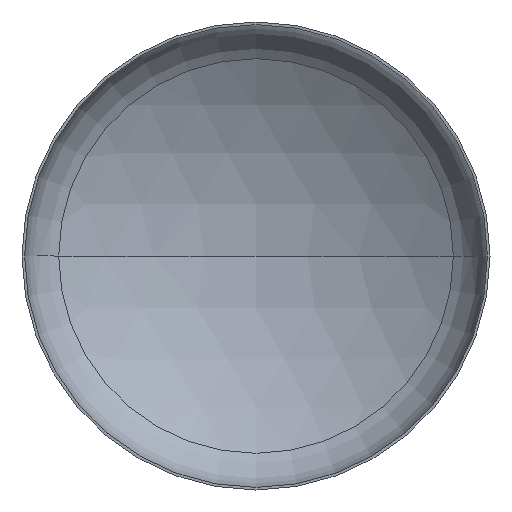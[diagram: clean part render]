
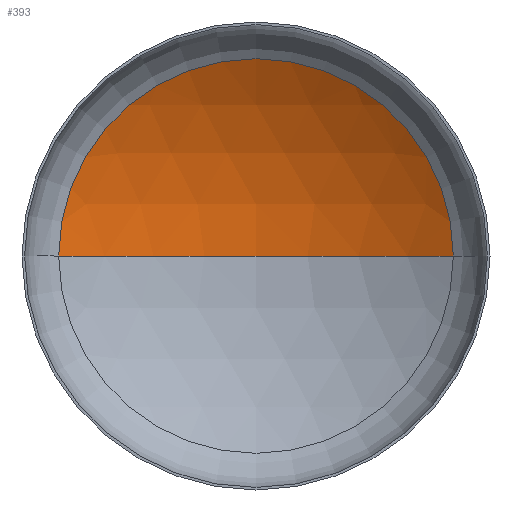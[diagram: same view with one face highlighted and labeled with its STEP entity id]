
A CAD part, front view. The second image highlights one B-rep face of the part: STEP entity #393.
In plain terms, the highlighted spherical face has radius 2880 mm.
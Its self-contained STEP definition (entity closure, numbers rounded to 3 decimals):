
#7 = AXIS2_PLACEMENT_3D ( 'NONE', #399, #205, #112 ) ;
#8 = CARTESIAN_POINT ( 'NONE',  ( 0., -1916.107, 0. ) ) ;
#12 = EDGE_LOOP ( 'NONE', ( #57, #41, #79 ) ) ;
#41 = ORIENTED_EDGE ( 'NONE', *, *, #124, .T. ) ;
#53 = AXIS2_PLACEMENT_3D ( 'NONE', #8, #259, #207 ) ;
#54 = AXIS2_PLACEMENT_3D ( 'NONE', #232, #330, #332 ) ;
#57 = ORIENTED_EDGE ( 'NONE', *, *, #342, .F. ) ;
#79 = ORIENTED_EDGE ( 'NONE', *, *, #121, .T. ) ;
#88 = VERTEX_POINT ( 'NONE', #221 ) ;
#112 = DIRECTION ( 'NONE',  ( 1., 0., 0. ) ) ;
#117 = VERTEX_POINT ( 'NONE', #186 ) ;
#121 = EDGE_CURVE ( 'NONE', #137, #88, #214, .T. ) ;
#124 = EDGE_CURVE ( 'NONE', #117, #137, #152, .T. ) ;
#137 = VERTEX_POINT ( 'NONE', #212 ) ;
#148 = DIRECTION ( 'NONE',  ( 0., 0., -1. ) ) ;
#152 = CIRCLE ( 'NONE', #53, 2880. ) ;
#186 = CARTESIAN_POINT ( 'NONE',  ( 0., 963.893, 0. ) ) ;
#205 = DIRECTION ( 'NONE',  ( 0., 0., 1. ) ) ;
#207 = DIRECTION ( 'NONE',  ( -1., 0., 0. ) ) ;
#212 = CARTESIAN_POINT ( 'NONE',  ( 1517.419, 531.716, 0. ) ) ;
#214 = CIRCLE ( 'NONE', #54, 1517.419 ) ;
#217 = SPHERICAL_SURFACE ( 'NONE', #394, 2880. ) ;
#221 = CARTESIAN_POINT ( 'NONE',  ( -1517.419, 531.716, 0. ) ) ;
#224 = FACE_OUTER_BOUND ( 'NONE', #12, .T. ) ;
#232 = CARTESIAN_POINT ( 'NONE',  ( 0., 531.716, 0. ) ) ;
#259 = DIRECTION ( 'NONE',  ( 0., 0., -1. ) ) ;
#265 = DIRECTION ( 'NONE',  ( -1., 0., 0. ) ) ;
#287 = CARTESIAN_POINT ( 'NONE',  ( 0., -1916.107, 0. ) ) ;
#330 = DIRECTION ( 'NONE',  ( 0., -1., 0. ) ) ;
#332 = DIRECTION ( 'NONE',  ( 1., 0., 0. ) ) ;
#342 = EDGE_CURVE ( 'NONE', #117, #88, #368, .T. ) ;
#368 = CIRCLE ( 'NONE', #7, 2880. ) ;
#393 = ADVANCED_FACE ( 'NONE', ( #224 ), #217, .F. ) ;
#394 = AXIS2_PLACEMENT_3D ( 'NONE', #287, #148, #265 ) ;
#399 = CARTESIAN_POINT ( 'NONE',  ( 0., -1916.107, 0. ) ) ;
